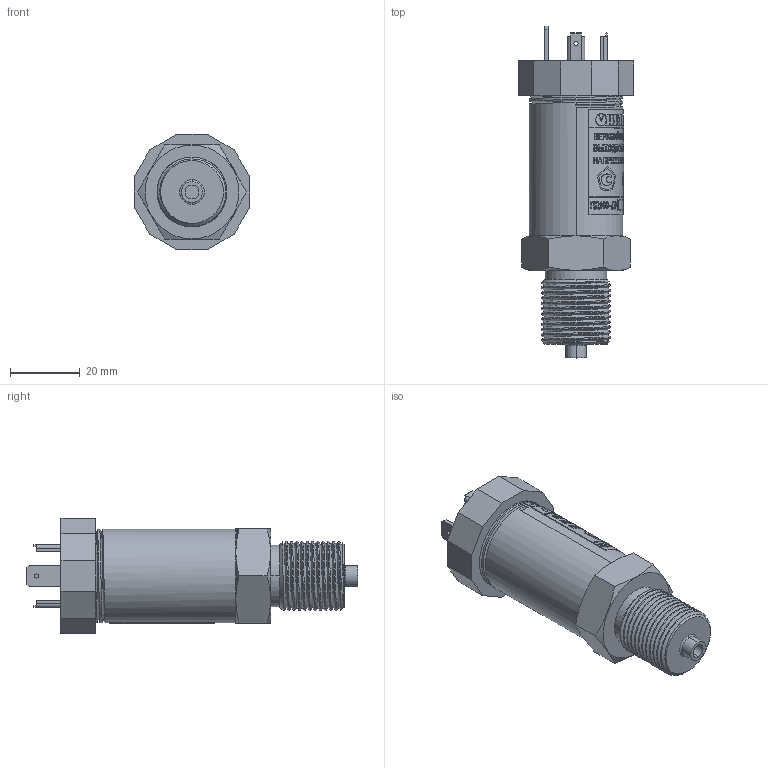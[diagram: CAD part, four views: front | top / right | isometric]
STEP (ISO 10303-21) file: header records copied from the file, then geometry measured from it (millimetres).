
FILE_DESCRIPTION (( 'STEP AP214' ), '1' );
FILE_NAME ('3D 斁麧錪 狦100-311.STEP', '2015-12-11T10:19:03', ( '' ), ( '' ), 'SwSTEP 2.0', 'SolidWorks 2013', '' );
FILE_SCHEMA (( 'AUTOMOTIVE_DESIGN' ));
Length unit declared in the file: millimetre
Products named in the file (4): 扻豵鵨 狦100; 3D 斁麧錪 狦100-311; PD100_001LA03M; Ãàéêà Ì27
Assembly tree (3 placements, depth 2):
  3D 斁麧錪 狦100-311
    扻豵鵨 狦100
    Ãàéêà Ì27
    PD100_001LA03M
Bounding box: 33 x 95 x 33 mm (x, y, z)
Volume: 43272 mm3; surface area: 15576.3 mm2
Topology: 3 solids, 3 shells, 1699 faces, 4488 edges, 2986 vertices
Faces by surface type: plane 948, bspline 486, cylinder 254, cone 9, torus 2
Entity records: 90926 total; most frequent: CARTESIAN_POINT 36293, ORIENTED_EDGE 8976, DIRECTION 6226, EDGE_CURVE 4488, VERTEX_POINT 2986, AXIS2_PLACEMENT_3D 2250, EDGE_LOOP 1900, LINE 1726
